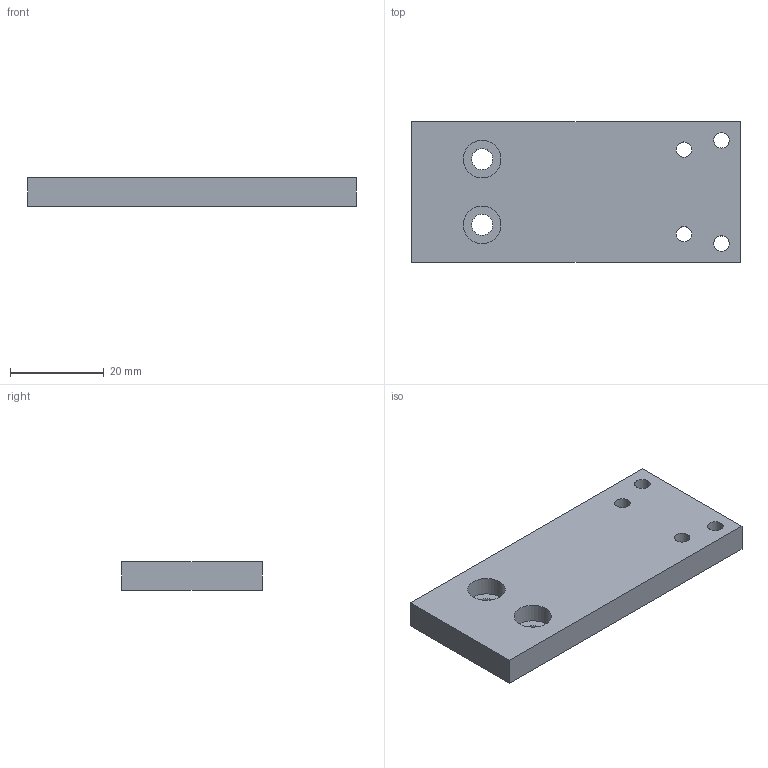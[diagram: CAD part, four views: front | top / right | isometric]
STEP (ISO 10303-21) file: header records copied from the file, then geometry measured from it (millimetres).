
FILE_DESCRIPTION (( 'STEP AP214' ), '1' );
FILE_NAME ('N20910A.step', '2024-12-03T16:26:49', ( '' ), ( '' ), 'SwSTEP 2.0', 'SolidWorks 2023', '' );
FILE_SCHEMA (( 'AUTOMOTIVE_DESIGN' ));
Length unit declared in the file: millimetre
Products named in the file (1): N20910A
Bounding box: 70 x 30 x 6 mm (x, y, z)
Volume: 11929 mm3; surface area: 5774.4 mm2
Topology: 1 solids, 1 shells, 16 faces, 36 edges, 24 vertices
Faces by surface type: plane 8, cylinder 8
Full cylindrical faces by diameter (mm): 3.3 x4, 4.5 x2, 8 x2
Entity records: 463 total; most frequent: DIRECTION 78, CARTESIAN_POINT 69, ORIENTED_EDGE 56, EDGE_LOOP 38, AXIS2_PLACEMENT_3D 33, EDGE_CURVE 28, VERTEX_POINT 24, FACE_OUTER_BOUND 24
